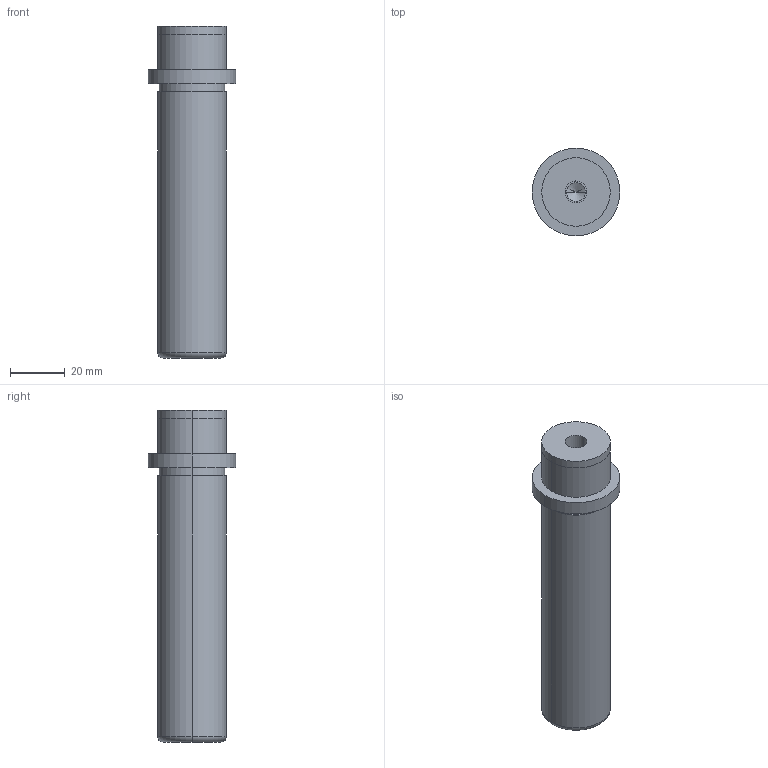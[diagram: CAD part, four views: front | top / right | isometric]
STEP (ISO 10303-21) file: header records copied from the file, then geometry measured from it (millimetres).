
FILE_DESCRIPTION(/* description */ (''),/* implementation_level */ '2;1');
FILE_NAME(/* name */ '3d_sgpw25-105_05263_r00.stp',/* time_stamp */ '2011-01-10T14:11:03+09:00',/* author */ ('MISUMI'),/* organization */ (''),/* preprocessor_version */ 'ST-DEVELOPER v11',/* originating_system */ 'UGS - NX 5.0',/* authorisation */ '');
FILE_SCHEMA (('CONFIG_CONTROL_DESIGN'));
Length unit declared in the file: millimetre
Products named in the file (1): 3d_sgpw25-105_05263_r00
Bounding box: 32 x 32 x 121 mm (x, y, z)
Volume: 58779.8 mm3; surface area: 12221.6 mm2
Topology: 1 solids, 1 shells, 31 faces, 64 edges, 38 vertices
Faces by surface type: cylinder 18, plane 7, cone 4, torus 2
Entity records: 890 total; most frequent: DIRECTION 162, CARTESIAN_POINT 130, ORIENTED_EDGE 120, AXIS2_PLACEMENT_3D 70, EDGE_CURVE 60, EDGE_LOOP 38, CIRCLE 38, VERTEX_POINT 38
